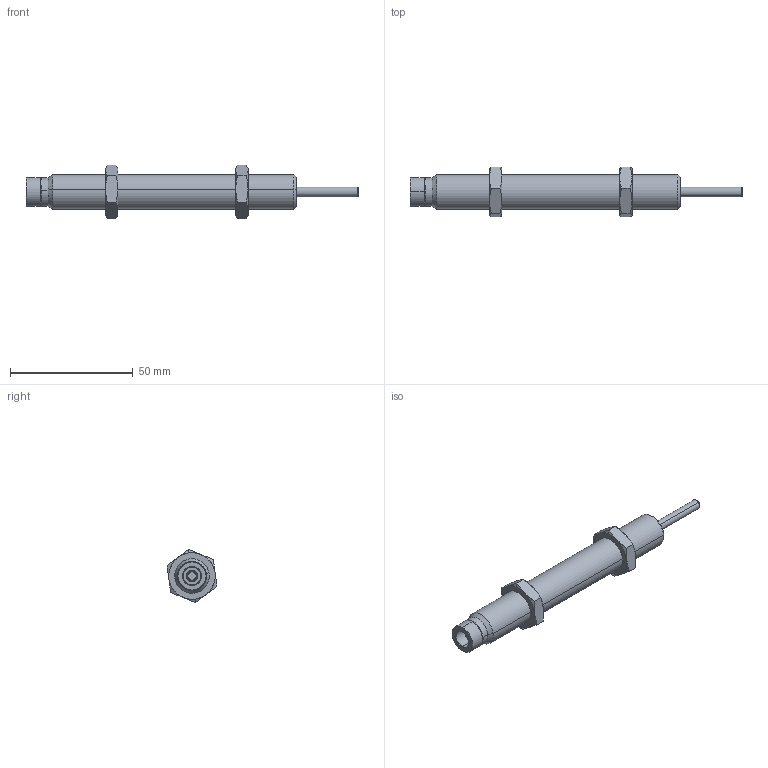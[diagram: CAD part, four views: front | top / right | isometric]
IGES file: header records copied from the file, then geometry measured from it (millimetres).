
Start section: SolidWorks IGES file using analytic representation for surfaces
Global section: file name: D:\IGS跡宒\AC1425-N(P1.0).IGS,1; native system: 5HSolidWorks 2013; preprocessor: SolidWorks 2013; author: Administrator; date: 160412.105800; units: inch
Bounding box: 135.1 x 20.32 x 21.73 mm (x, y, z)
Surface area: 7429.3 mm2 (no closed solid volume)
Topology: 0 solids, 0 shells, 70 faces, 1168 edges, 1168 vertices
Faces by surface type: revolution 48, bspline 22
